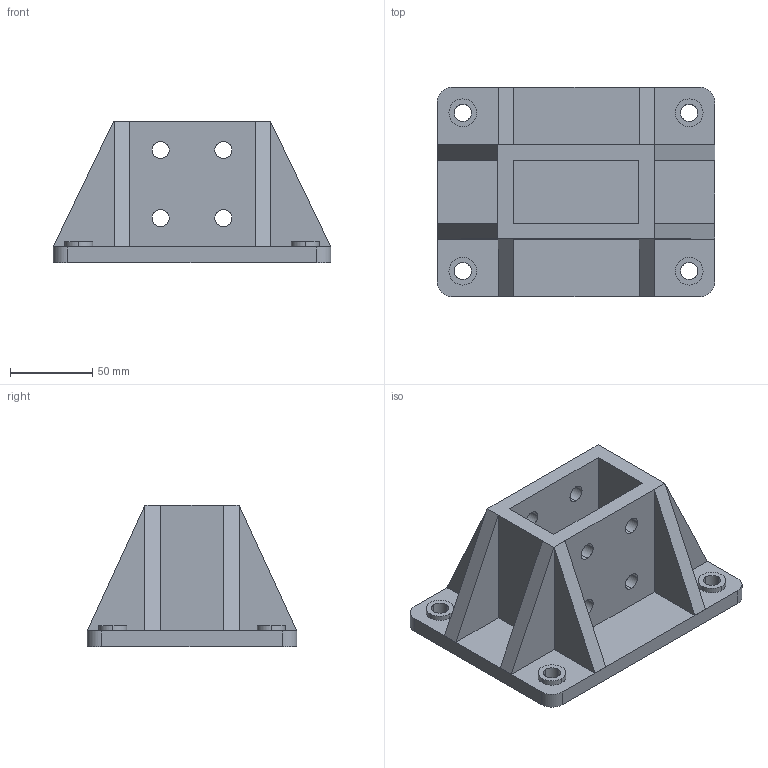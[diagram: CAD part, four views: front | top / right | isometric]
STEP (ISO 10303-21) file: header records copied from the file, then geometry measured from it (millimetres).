
FILE_DESCRIPTION(('TurboCAD Mac Pro'),'Build 980');
FILE_NAME('F20PU-5904.stp',' ',(''),(''),'ACIS Interop','IMSI','TurboCAD Mac Pro BY IMSI, INCORPORATED');
FILE_SCHEMA(('automotive_design'));
Length unit declared in the file: inch
Products named in the file (1): 1
Bounding box: 168.28 x 127 x 85.72 mm (x, y, z)
Volume: 490202.9 mm3; surface area: 115155.8 mm2
Topology: 1 solids, 1 shells, 115 faces, 312 edges, 204 vertices
Faces by surface type: bspline 68, plane 47
Entity records: 4930 total; most frequent: CARTESIAN_POINT 1516, ORIENTED_EDGE 624, EDGE_CURVE 312, DIRECTION 272, VERTEX_POINT 204, LINE 176, VECTOR 176, EDGE_LOOP 144
